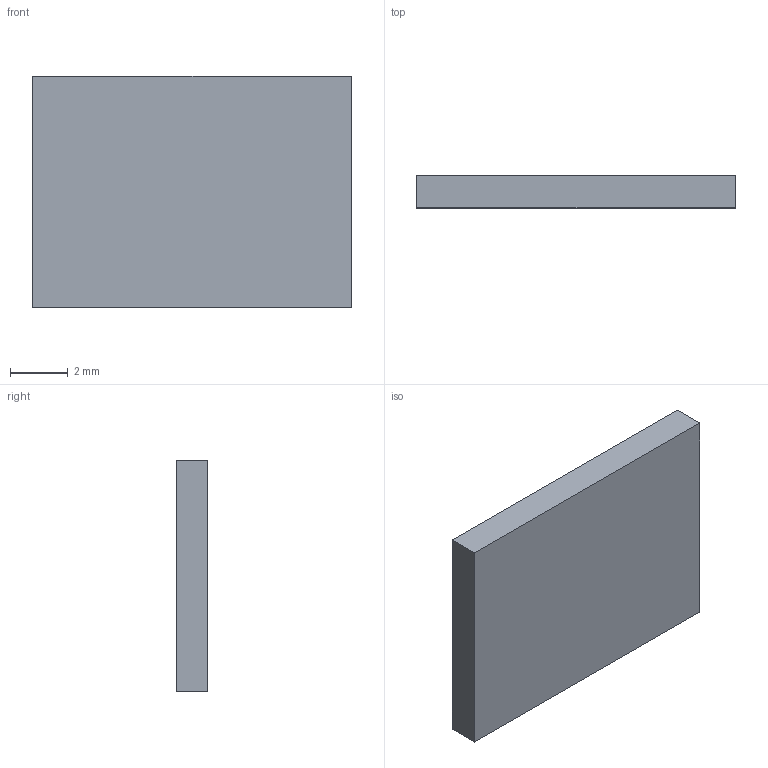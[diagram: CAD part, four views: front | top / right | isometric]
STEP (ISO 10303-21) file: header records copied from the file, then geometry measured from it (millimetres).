
FILE_DESCRIPTION(('FreeCAD Model'),'2;1');
FILE_NAME('Open CASCADE Shape Model','2026-11-20T08:25:32',('FreeCAD'),( 'FreeCAD'),'Open CASCADE STEP processor 7.8','FreeCAD','Unknown');
FILE_SCHEMA(('AUTOMOTIVE_DESIGN { 1 0 10303 214 1 1 1 1 }'));
Length unit declared in the file: millimetre
Products named in the file (1): Open CASCADE STEP translator 7.8 7
Bounding box: 11 x 1.1 x 8 mm (x, y, z)
Volume: 96.8 mm3; surface area: 217.8 mm2
Topology: 1 solids, 1 shells, 6 faces, 12 edges, 8 vertices
Faces by surface type: plane 6
Entity records: 166 total; most frequent: CARTESIAN_POINT 27, DIRECTION 26, ORIENTED_EDGE 24, EDGE_CURVE 12, LINE 12, VECTOR 12, VERTEX_POINT 8, AXIS2_PLACEMENT_3D 7
